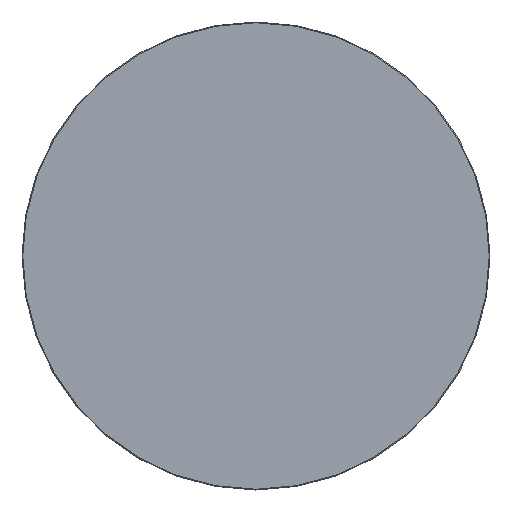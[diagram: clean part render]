
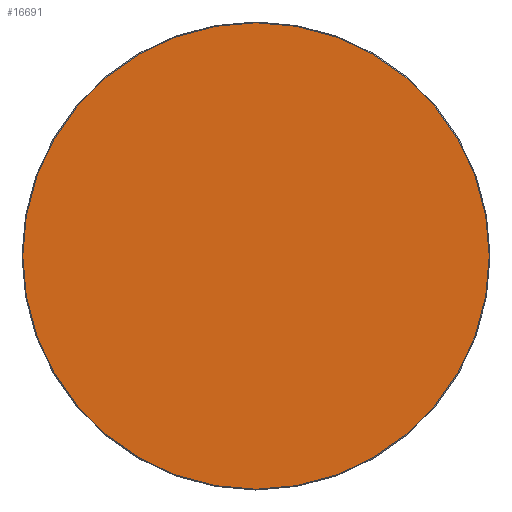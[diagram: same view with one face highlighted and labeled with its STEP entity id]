
A CAD part, top view. The second image highlights one B-rep face of the part: STEP entity #16691.
In plain terms, the highlighted planar face has unit normal (0, 0, 1).
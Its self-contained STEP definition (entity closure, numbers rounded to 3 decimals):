
#16616=CARTESIAN_POINT('',(0.,0.,20.));
#16617=DIRECTION('',(1.,0.,0.));
#16618=DIRECTION('',(0.,0.,1.));
#16619=AXIS2_PLACEMENT_3D('',#16616,#16618,#16617);
#16620=PLANE('',#16619);
#16621=CARTESIAN_POINT('',(-0.5,-448.5,20.));
#16622=VERTEX_POINT('',#16621);
#16623=CARTESIAN_POINT('',(0.5,-448.5,20.));
#16624=VERTEX_POINT('',#16623);
#16625=CARTESIAN_POINT('',(-0.5,-448.5,20.));
#16626=DIRECTION('',(1.,0.,0.));
#16627=VECTOR('',#16626,1.);
#16628=LINE('',#16625,#16627);
#16629=EDGE_CURVE('',#16622,#16624,#16628,.T.);
#16630=ORIENTED_EDGE('E105',*,*,#16629,.T.);
#16631=CARTESIAN_POINT('',(448.5,-0.5,20.));
#16632=VERTEX_POINT('',#16631);
#16633=CARTESIAN_POINT('',(0.5,-0.5,20.));
#16634=DIRECTION('',(0.,-1.,0.));
#16635=DIRECTION('',(0.,0.,1.));
#16636=AXIS2_PLACEMENT_3D('',#16633,#16635,#16634);
#16637=CIRCLE('',#16636,448.);
#16638=EDGE_CURVE('',#16624,#16632,#16637,.T.);
#16639=ORIENTED_EDGE('E107',*,*,#16638,.T.);
#16640=CARTESIAN_POINT('',(448.5,0.5,20.));
#16641=VERTEX_POINT('',#16640);
#16642=CARTESIAN_POINT('',(448.5,-0.5,20.));
#16643=DIRECTION('',(0.,1.,0.));
#16644=VECTOR('',#16643,1.);
#16645=LINE('',#16642,#16644);
#16646=EDGE_CURVE('',#16632,#16641,#16645,.T.);
#16647=ORIENTED_EDGE('E109',*,*,#16646,.T.);
#16648=CARTESIAN_POINT('',(0.5,448.5,20.));
#16649=VERTEX_POINT('',#16648);
#16650=CARTESIAN_POINT('',(0.5,0.5,20.));
#16651=DIRECTION('',(1.,0.,0.));
#16652=DIRECTION('',(0.,0.,1.));
#16653=AXIS2_PLACEMENT_3D('',#16650,#16652,#16651);
#16654=CIRCLE('',#16653,448.);
#16655=EDGE_CURVE('',#16641,#16649,#16654,.T.);
#16656=ORIENTED_EDGE('E111',*,*,#16655,.T.);
#16657=CARTESIAN_POINT('',(-0.5,448.5,20.));
#16658=VERTEX_POINT('',#16657);
#16659=CARTESIAN_POINT('',(0.5,448.5,20.));
#16660=DIRECTION('',(-1.,0.,0.));
#16661=VECTOR('',#16660,1.);
#16662=LINE('',#16659,#16661);
#16663=EDGE_CURVE('',#16649,#16658,#16662,.T.);
#16664=ORIENTED_EDGE('E113',*,*,#16663,.T.);
#16665=CARTESIAN_POINT('',(-448.5,0.5,20.));
#16666=VERTEX_POINT('',#16665);
#16667=CARTESIAN_POINT('',(-0.5,0.5,20.));
#16668=DIRECTION('',(0.,1.,0.));
#16669=DIRECTION('',(0.,0.,1.));
#16670=AXIS2_PLACEMENT_3D('',#16667,#16669,#16668);
#16671=CIRCLE('',#16670,448.);
#16672=EDGE_CURVE('',#16658,#16666,#16671,.T.);
#16673=ORIENTED_EDGE('E115',*,*,#16672,.T.);
#16674=CARTESIAN_POINT('',(-448.5,-0.5,20.));
#16675=VERTEX_POINT('',#16674);
#16676=CARTESIAN_POINT('',(-448.5,0.5,20.));
#16677=DIRECTION('',(0.,-1.,0.));
#16678=VECTOR('',#16677,1.);
#16679=LINE('',#16676,#16678);
#16680=EDGE_CURVE('',#16666,#16675,#16679,.T.);
#16681=ORIENTED_EDGE('E117',*,*,#16680,.T.);
#16682=CARTESIAN_POINT('',(-0.5,-0.5,20.));
#16683=DIRECTION('',(-1.,0.,0.));
#16684=DIRECTION('',(0.,0.,1.));
#16685=AXIS2_PLACEMENT_3D('',#16682,#16684,#16683);
#16686=CIRCLE('',#16685,448.);
#16687=EDGE_CURVE('',#16675,#16622,#16686,.T.);
#16688=ORIENTED_EDGE('E119',*,*,#16687,.T.);
#16689=EDGE_LOOP('',(#16630,#16639,#16647,#16656,#16664,#16673,#16681,#16688));
#16690=FACE_OUTER_BOUND('',#16689,.T.);
#16691=ADVANCED_FACE('F2',(#16690),#16620,.T.);
